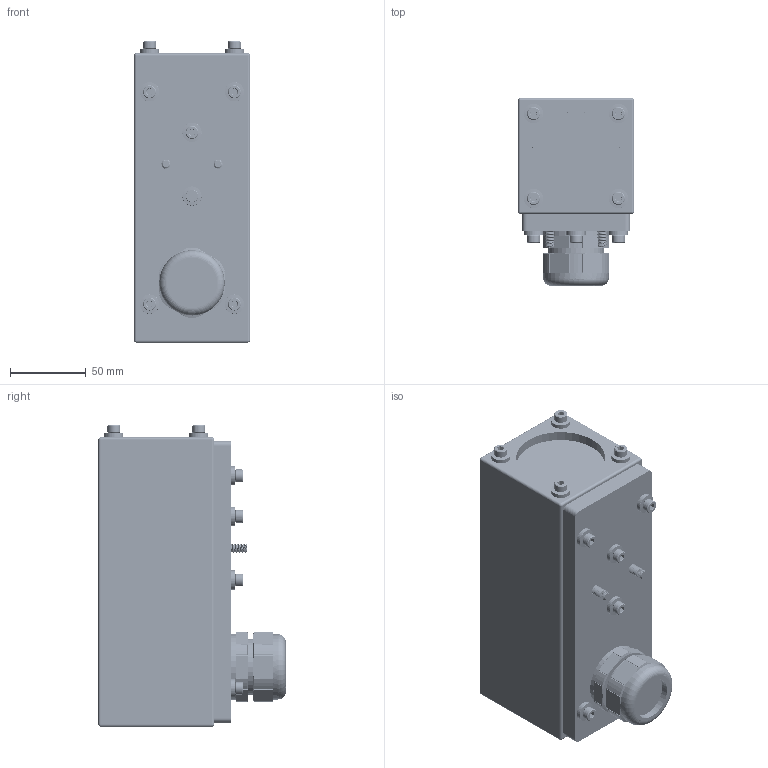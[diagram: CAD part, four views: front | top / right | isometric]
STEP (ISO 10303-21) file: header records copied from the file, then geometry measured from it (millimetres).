
FILE_DESCRIPTION (( 'STEP AP203' ), '1' );
FILE_NAME ('30D-EM.STEP', '2022-02-09T20:58:07', ( '' ), ( '' ), 'SwSTEP 2.0', 'SolidWorks 2021', '' );
FILE_SCHEMA (( 'CONFIG_CONTROL_DESIGN' ));
Length unit declared in the file: inch
Products named in the file (21): PG29-S01; 9452K140_9452K14; 500104; 200401; 200305; 200344; 30D-EM; 94709A214; 200400; 200343; 91292A137; 400108; 91292A128; PG29-I01; SP-M5-2; 93625A200; PG29-01-01-01-03; 400109; PG29-N03; 94709A212; PG29-B01
Assembly tree (51 placements, depth 3):
  30D-EM
    200305
    200401
      200400
      SP-M5-2  x4
    400108
    400109
    500104
    200343
    200344
    93625A200  x6
    94709A212  x10
    91292A128  x10
    94709A214  x2
    91292A137  x2
    9452K140_9452K14  x4
    PG29-01-01-01-03
      PG29-B01
      PG29-I01
      PG29-S01
      PG29-N03
Bounding box: 76.2 x 123.31 x 198.35 mm (x, y, z)
Volume: 295912 mm3; surface area: 236557.7 mm2
Topology: 68 solids, 68 shells, 3096 faces, 8323 edges, 5371 vertices
Faces by surface type: cylinder 1868, plane 653, cone 348, sphere 104, torus 81, bspline 42
Entity records: 43234 total; most frequent: CARTESIAN_POINT 13523, ORIENTED_EDGE 5782, DIRECTION 5508, EDGE_CURVE 2891, AXIS2_PLACEMENT_3D 2097, VERTEX_POINT 1862, VECTOR 1314, LINE 1314
